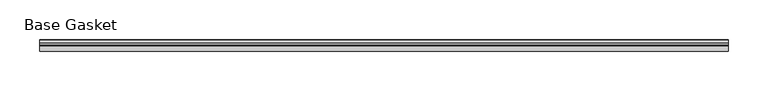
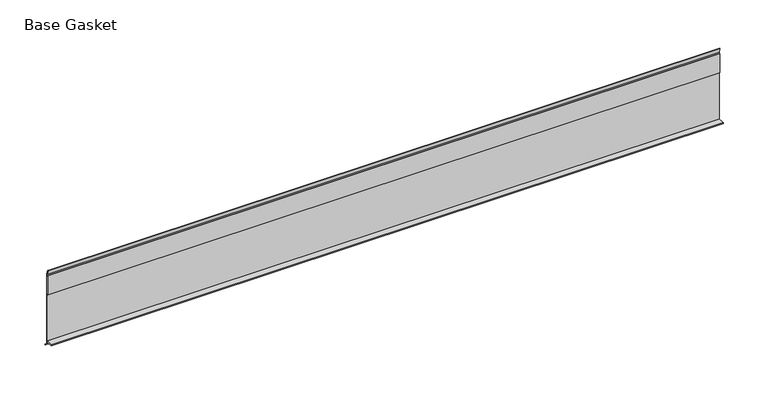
"""IFC4 building model written with IfcOpenShell, lengths in millimetres: furniture geometry, Gasket-Teknion-FHGB-AI_Healthcare-R2021 : Base Gasket."""

from ifc_helpers import new_model, si_unit, frame, origin, place, context, project, spatial, polyline, outline, extrude, source, transform, mapped, element, save


def base_gasket_720844a2(model_context):
    return source(origin(), model_context, "Body", "SweptSolid", [
        extrude(outline(polyline([(3.7283812, 98.4568417), (3.7283812, 4.3498477), (7.4222115, 0.6560174), (7.8482342, 0.0), (6.8281054, 0.3520979), (2.2043812, 4.3498477), (2.1334222, 6.3818476), (-6.2405171, 6.3818476), (-6.2405171, 7.9398773), (2.2043812, 7.9398773), (2.2043812, 71.4693447), (1.4106313, 71.4693447), (1.4106313, 96.8693477), (2.2043812, 96.8693477), (2.2043812, 98.4568417), (0.6755308, 104.4162708), (0.6755308, 105.2002997), (1.1891543, 104.587663), (3.7283812, 98.4568417)])), frame((-1527.8982117, 0.0, 0.0), z_axis=(1.0, 0.0, 0.0), x_axis=(0.0, 1.0, 0.0)), (0.0, 0.0, 1.0), 863.6),
    ])


if __name__ == "__main__":
    model = new_model("IFC4")
    model_context = context("Model", 3, world=origin())
    ifc_project = project(units=[si_unit("LENGTHUNIT", "METRE", prefix="MILLI")], contexts=[model_context])
    site = spatial("IfcSite", under=ifc_project)
    building = spatial("IfcBuilding", under=site)
    placement = place(None, origin())
    base_gasket_shape = base_gasket_720844a2(model_context)
    element("IfcFurniture", 1, ObjectType="Gasket-Teknion-FHGB-AI_Healthcare-R2021 : Base Gasket", at=placement, inside=building, context=model_context, shape_type="MappedRepresentation", body=[
        mapped(base_gasket_shape, transform((0.0, 0.0, 0.0), x_axis=(1.0, 0.0, 0.0), y_axis=(0.0, 1.0, 0.0), z_axis=(0.0, 0.0, 1.0))),
    ])
    save(model, "model.ifc")
